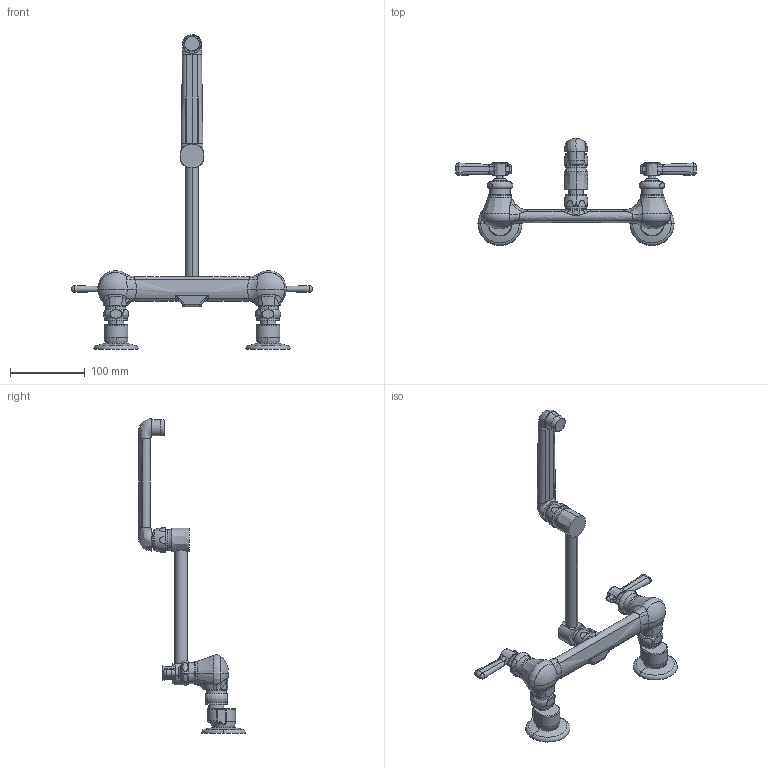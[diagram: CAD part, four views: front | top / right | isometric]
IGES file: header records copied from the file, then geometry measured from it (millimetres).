
Start section:  PTC IGES file: 540-lddj13_sw0001.igs
Global section: file name: 540-lddj13_sw0001.igs; native system: Pro/ENGINEER by Parametric Technology Corporation; preprocessor: 2010230; author: jrodriguez; organization: Unknown; date: 20110907.111904; units: inch
Bounding box: 322.07 x 142.85 x 420.88 mm (x, y, z)
Surface area: 113020.2 mm2 (no closed solid volume)
Topology: 0 solids, 0 shells, 529 faces, 3706 edges, 4900 vertices
Faces by surface type: bspline 343, revolution 186
